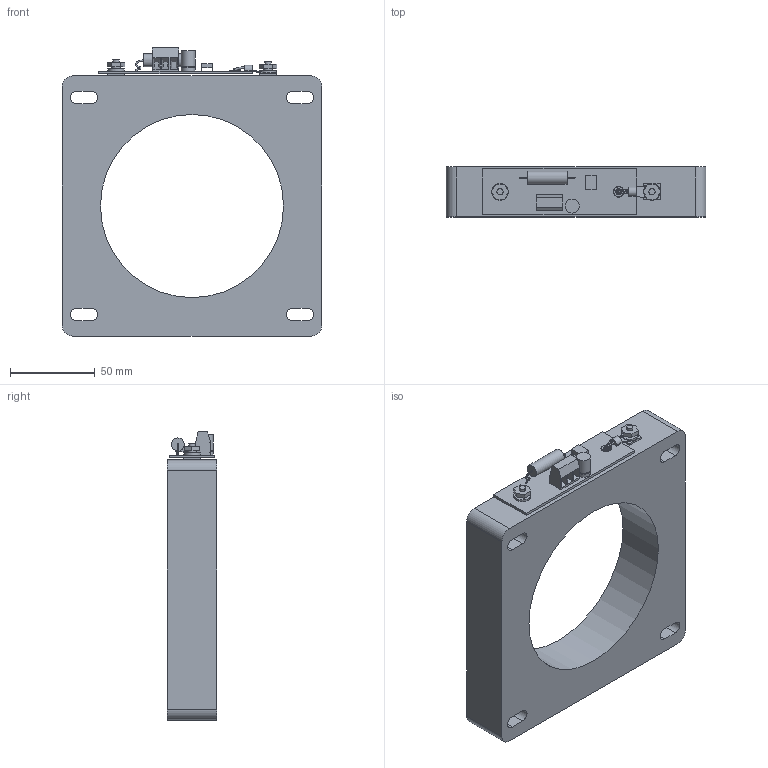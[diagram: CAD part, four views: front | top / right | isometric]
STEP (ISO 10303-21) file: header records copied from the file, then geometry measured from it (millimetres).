
FILE_DESCRIPTION(/* description */ (''),/* implementation_level */ '2;1');
FILE_NAME(/* name */ 'D:\MCS - SERVER ORGANIZATION\Drawings - Mcs Hardware\Boards & Electrical Parts\MCS-CT1500\MCS-CT1500.stp',/* time_stamp */ '2015-09-25T16:48:19-04:00',/* author */ ('Ian L Mitchell'),/* organization */ (''),/* preprocessor_version */ 'ST-DEVELOPER v15.2',/* originating_system */ 'Autodesk Inventor 2014',/* authorisation */ '');
FILE_SCHEMA (('AUTOMOTIVE_DESIGN { 1 0 10303 214 3 1 1 }'));
Length unit declared in the file: inch
Products named in the file (1): MCS-CT1500
Bounding box: 153.1 x 29.46 x 169.99 mm (x, y, z)
Volume: 416922.9 mm3; surface area: 69462.2 mm2
Topology: 11 solids, 11 shells, 206 faces, 519 edges, 347 vertices
Faces by surface type: plane 138, bspline 33, cylinder 31, torus 4
Full cylindrical faces by diameter (mm): 3.683 x7, 5.08 x2, 7.62 x1, 8.255 x2, 9.906 x2, 107.95 x1
Entity records: 8225 total; most frequent: CARTESIAN_POINT 3425, ORIENTED_EDGE 984, DIRECTION 887, EDGE_CURVE 492, VERTEX_POINT 339, AXIS2_PLACEMENT_3D 298, LINE 291, VECTOR 291
